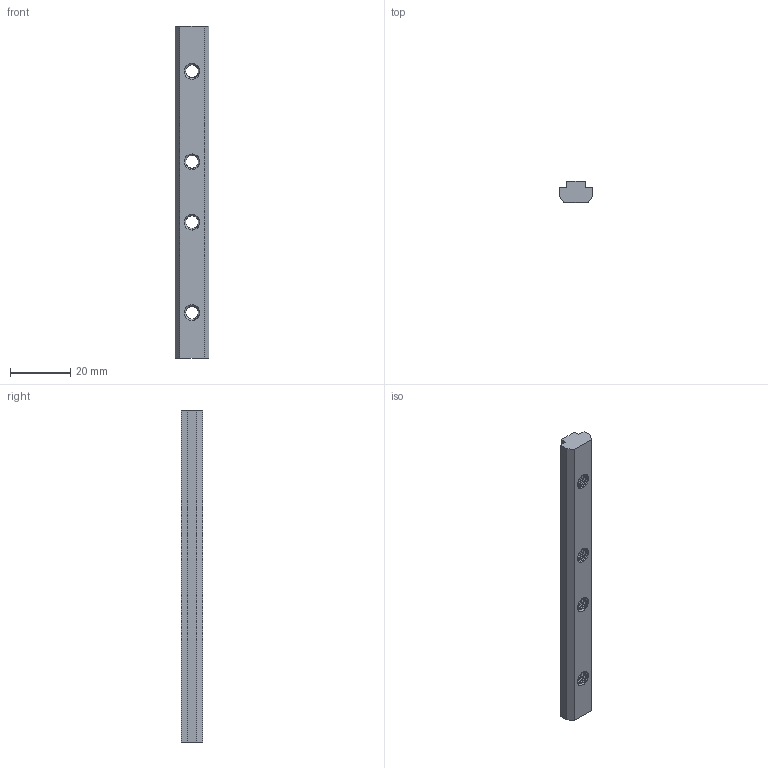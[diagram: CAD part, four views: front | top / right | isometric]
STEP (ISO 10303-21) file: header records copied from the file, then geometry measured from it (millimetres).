
FILE_DESCRIPTION (( 'STEP AP203' ), '1' );
FILE_NAME ('87-CG-ISC3030-6.STEP', '2015-07-09T08:31:54', ( '' ), ( '' ), 'SwSTEP 2.0', 'SolidWorks 2013', '' );
FILE_SCHEMA (( 'CONFIG_CONTROL_DESIGN' ));
Length unit declared in the file: millimetre
Products named in the file (1): 87-CG-ISC3030-6
Bounding box: 11 x 7 x 110 mm (x, y, z)
Volume: 6582.7 mm3; surface area: 4337.8 mm2
Topology: 1 solids, 1 shells, 100 faces, 262 edges, 164 vertices
Faces by surface type: cylinder 56, cone 24, plane 12, bspline 8
Entity records: 6939 total; most frequent: CARTESIAN_POINT 4775, ORIENTED_EDGE 524, DIRECTION 348, EDGE_CURVE 262, VERTEX_POINT 164, AXIS2_PLACEMENT_3D 125, EDGE_LOOP 108, ADVANCED_FACE 100
